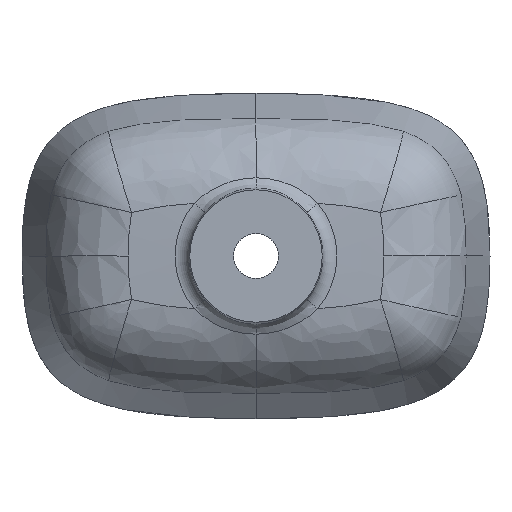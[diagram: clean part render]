
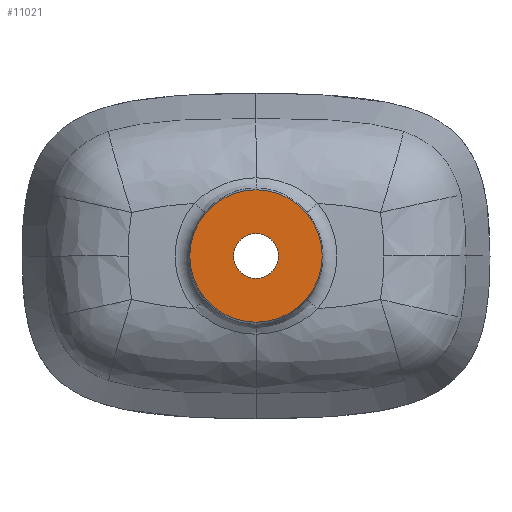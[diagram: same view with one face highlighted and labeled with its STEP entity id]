
A CAD part, front view. The second image highlights one B-rep face of the part: STEP entity #11021.
In plain terms, the highlighted planar face has unit normal (0, -1, 0).
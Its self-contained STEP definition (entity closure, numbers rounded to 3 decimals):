
#488 = CIRCLE ( 'NONE', #24391, 22. ) ;
#633 = VERTEX_POINT ( 'NONE', #16879 ) ;
#1474 = CARTESIAN_POINT ( 'NONE',  ( 0., -152., 0. ) ) ;
#1482 = AXIS2_PLACEMENT_3D ( 'NONE', #27506, #6591, #15908 ) ;
#2081 = EDGE_CURVE ( 'NONE', #633, #12681, #14664, .T. ) ;
#2357 = ORIENTED_EDGE ( 'NONE', *, *, #9387, .T. ) ;
#4862 = AXIS2_PLACEMENT_3D ( 'NONE', #16661, #25971, #5045 ) ;
#5045 = DIRECTION ( 'NONE',  ( 0., 0., -1. ) ) ;
#6061 = FACE_OUTER_BOUND ( 'NONE', #10841, .T. ) ;
#6241 = CARTESIAN_POINT ( 'NONE',  ( 0., -152., 0. ) ) ;
#6591 = DIRECTION ( 'NONE',  ( 0., 1., 0. ) ) ;
#7009 = EDGE_CURVE ( 'NONE', #12681, #633, #488, .T. ) ;
#9387 = EDGE_CURVE ( 'NONE', #10547, #28559, #28788, .T. ) ;
#10401 = ORIENTED_EDGE ( 'NONE', *, *, #7009, .T. ) ;
#10547 = VERTEX_POINT ( 'NONE', #12643 ) ;
#10631 = CARTESIAN_POINT ( 'NONE',  ( 0., -152., 0. ) ) ;
#10790 = DIRECTION ( 'NONE',  ( 0., -1., 0. ) ) ;
#10841 = EDGE_LOOP ( 'NONE', ( #13783, #2357 ) ) ;
#11021 = ADVANCED_FACE ( 'NONE', ( #6061, #13086 ), #22395, .T. ) ;
#11252 = CIRCLE ( 'NONE', #11805, 65. ) ;
#11805 = AXIS2_PLACEMENT_3D ( 'NONE', #10631, #19946, #29262 ) ;
#12643 = CARTESIAN_POINT ( 'NONE',  ( 0., -152., 65. ) ) ;
#12681 = VERTEX_POINT ( 'NONE', #19773 ) ;
#13086 = FACE_BOUND ( 'NONE', #30116, .T. ) ;
#13783 = ORIENTED_EDGE ( 'NONE', *, *, #25972, .T. ) ;
#14664 = CIRCLE ( 'NONE', #1482, 22. ) ;
#15559 = DIRECTION ( 'NONE',  ( 0., 1., 0. ) ) ;
#15908 = DIRECTION ( 'NONE',  ( -1., 0., 0. ) ) ;
#16661 = CARTESIAN_POINT ( 'NONE',  ( 0., -152., 0. ) ) ;
#16879 = CARTESIAN_POINT ( 'NONE',  ( -22., -152., 0. ) ) ;
#19481 = CARTESIAN_POINT ( 'NONE',  ( 0., -152., -65. ) ) ;
#19773 = CARTESIAN_POINT ( 'NONE',  ( 22., -152., 0. ) ) ;
#19946 = DIRECTION ( 'NONE',  ( 0., -1., 0. ) ) ;
#20102 = DIRECTION ( 'NONE',  ( 0., 0., -1. ) ) ;
#22395 = PLANE ( 'NONE',  #23424 ) ;
#23424 = AXIS2_PLACEMENT_3D ( 'NONE', #1474, #10790, #20102 ) ;
#24391 = AXIS2_PLACEMENT_3D ( 'NONE', #6241, #15559, #24872 ) ;
#24596 = ORIENTED_EDGE ( 'NONE', *, *, #2081, .T. ) ;
#24872 = DIRECTION ( 'NONE',  ( -1., 0., 0. ) ) ;
#25971 = DIRECTION ( 'NONE',  ( 0., -1., 0. ) ) ;
#25972 = EDGE_CURVE ( 'NONE', #28559, #10547, #11252, .T. ) ;
#27506 = CARTESIAN_POINT ( 'NONE',  ( 0., -152., 0. ) ) ;
#28559 = VERTEX_POINT ( 'NONE', #19481 ) ;
#28788 = CIRCLE ( 'NONE', #4862, 65. ) ;
#29262 = DIRECTION ( 'NONE',  ( 0., 0., -1. ) ) ;
#30116 = EDGE_LOOP ( 'NONE', ( #24596, #10401 ) ) ;
